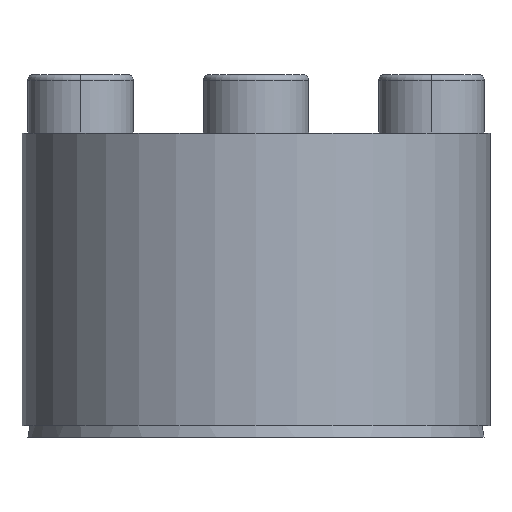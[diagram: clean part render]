
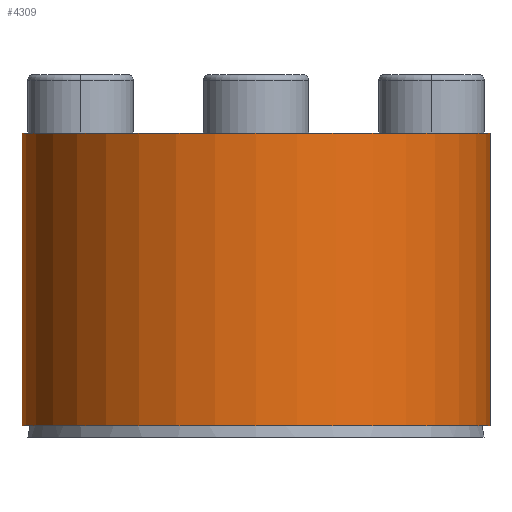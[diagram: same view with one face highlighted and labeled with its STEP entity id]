
A CAD part, front view. The second image highlights one B-rep face of the part: STEP entity #4309.
In plain terms, the highlighted cylindrical face has radius 10 mm (diameter 20 mm), a partial arc.
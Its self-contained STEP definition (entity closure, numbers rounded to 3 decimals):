
#908 = VERTEX_POINT ( 'NONE', #2028 ) ;
#1006 = DIRECTION ( 'NONE',  ( -1., 0., 0. ) ) ;
#1018 = ORIENTED_EDGE ( 'NONE', *, *, #5699, .F. ) ;
#1142 = DIRECTION ( 'NONE',  ( 0., 0., -1. ) ) ;
#1150 = CIRCLE ( 'NONE', #1804, 10. ) ;
#1168 = CARTESIAN_POINT ( 'NONE',  ( 0., 0., 13.012 ) ) ;
#1257 = AXIS2_PLACEMENT_3D ( 'NONE', #2966, #6796, #3526 ) ;
#1399 = EDGE_CURVE ( 'NONE', #6750, #3493, #1150, .T. ) ;
#1634 = DIRECTION ( 'NONE',  ( 0., 0., 1. ) ) ;
#1693 = ORIENTED_EDGE ( 'NONE', *, *, #6798, .F. ) ;
#1756 = DIRECTION ( 'NONE',  ( 0., 0., 1. ) ) ;
#1804 = AXIS2_PLACEMENT_3D ( 'NONE', #1168, #1142, #1006 ) ;
#1948 = LINE ( 'NONE', #2329, #6002 ) ;
#2028 = CARTESIAN_POINT ( 'NONE',  ( -10., 0., 0.512 ) ) ;
#2225 = DIRECTION ( 'NONE',  ( 1., 0., 0. ) ) ;
#2282 = AXIS2_PLACEMENT_3D ( 'NONE', #5524, #1634, #2225 ) ;
#2329 = CARTESIAN_POINT ( 'NONE',  ( 10., 0., 0.512 ) ) ;
#2966 = CARTESIAN_POINT ( 'NONE',  ( 0., 0., 0.512 ) ) ;
#3353 = EDGE_CURVE ( 'NONE', #4230, #6750, #1948, .T. ) ;
#3493 = VERTEX_POINT ( 'NONE', #4587 ) ;
#3526 = DIRECTION ( 'NONE',  ( -1., 0., 0. ) ) ;
#3980 = LINE ( 'NONE', #6858, #6728 ) ;
#4096 = CARTESIAN_POINT ( 'NONE',  ( 10., 0., 13.012 ) ) ;
#4174 = FACE_OUTER_BOUND ( 'NONE', #5676, .T. ) ;
#4230 = VERTEX_POINT ( 'NONE', #4856 ) ;
#4309 = ADVANCED_FACE ( 'NONE', ( #4174 ), #4955, .T. ) ;
#4587 = CARTESIAN_POINT ( 'NONE',  ( -10., 0., 13.012 ) ) ;
#4856 = CARTESIAN_POINT ( 'NONE',  ( 10., 0., 0.512 ) ) ;
#4913 = ORIENTED_EDGE ( 'NONE', *, *, #3353, .T. ) ;
#4955 = CYLINDRICAL_SURFACE ( 'NONE', #2282, 10. ) ;
#5524 = CARTESIAN_POINT ( 'NONE',  ( 0., 0., 0.512 ) ) ;
#5676 = EDGE_LOOP ( 'NONE', ( #1693, #1018, #4913, #6790 ) ) ;
#5699 = EDGE_CURVE ( 'NONE', #4230, #908, #6865, .T. ) ;
#6002 = VECTOR ( 'NONE', #1756, 1000. ) ;
#6333 = DIRECTION ( 'NONE',  ( 0., 0., 1. ) ) ;
#6728 = VECTOR ( 'NONE', #6333, 1000. ) ;
#6750 = VERTEX_POINT ( 'NONE', #4096 ) ;
#6790 = ORIENTED_EDGE ( 'NONE', *, *, #1399, .T. ) ;
#6796 = DIRECTION ( 'NONE',  ( 0., 0., -1. ) ) ;
#6798 = EDGE_CURVE ( 'NONE', #908, #3493, #3980, .T. ) ;
#6858 = CARTESIAN_POINT ( 'NONE',  ( -10., 0., 0.512 ) ) ;
#6865 = CIRCLE ( 'NONE', #1257, 10. ) ;
